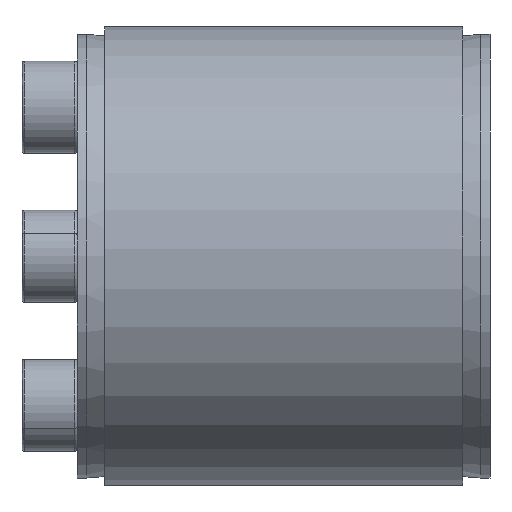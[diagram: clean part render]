
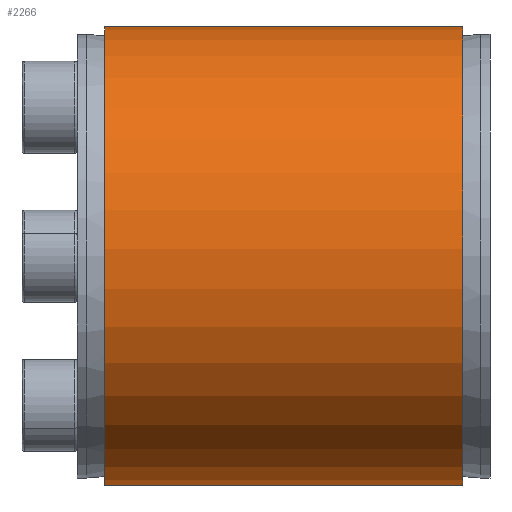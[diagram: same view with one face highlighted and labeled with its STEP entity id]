
A CAD part, front view. The second image highlights one B-rep face of the part: STEP entity #2266.
In plain terms, the highlighted cylindrical face has radius 25 mm (diameter 50 mm), a partial arc.
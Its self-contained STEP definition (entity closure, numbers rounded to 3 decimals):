
#130 = ORIENTED_EDGE ( 'NONE', *, *, #1966, .F. ) ;
#186 = VERTEX_POINT ( 'NONE', #965 ) ;
#212 = CARTESIAN_POINT ( 'NONE',  ( -43.184, -1.5, -24.955 ) ) ;
#333 = CARTESIAN_POINT ( 'NONE',  ( 21.732, 0., 25. ) ) ;
#440 = DIRECTION ( 'NONE',  ( 0., 0., 1. ) ) ;
#710 = ORIENTED_EDGE ( 'NONE', *, *, #2293, .T. ) ;
#965 = CARTESIAN_POINT ( 'NONE',  ( 21.732, -1.5, -24.955 ) ) ;
#1038 = CARTESIAN_POINT ( 'NONE',  ( 21.732, 0., 0. ) ) ;
#1049 = AXIS2_PLACEMENT_3D ( 'NONE', #3441, #5694, #3909 ) ;
#1065 = CIRCLE ( 'NONE', #1569, 25. ) ;
#1266 = VERTEX_POINT ( 'NONE', #3259 ) ;
#1298 = CIRCLE ( 'NONE', #1583, 25. ) ;
#1569 = AXIS2_PLACEMENT_3D ( 'NONE', #1038, #3871, #3390 ) ;
#1583 = AXIS2_PLACEMENT_3D ( 'NONE', #3018, #2194, #440 ) ;
#1670 = DIRECTION ( 'NONE',  ( -1., 0., 0. ) ) ;
#1757 = VERTEX_POINT ( 'NONE', #333 ) ;
#1966 = EDGE_CURVE ( 'NONE', #3067, #1266, #1298, .T. ) ;
#1986 = EDGE_CURVE ( 'NONE', #186, #1757, #1065, .T. ) ;
#2194 = DIRECTION ( 'NONE',  ( -1., 0., 0. ) ) ;
#2266 = ADVANCED_FACE ( 'NONE', ( #4749 ), #4362, .T. ) ;
#2293 = EDGE_CURVE ( 'NONE', #3067, #186, #4897, .T. ) ;
#2467 = EDGE_CURVE ( 'NONE', #1757, #1266, #2940, .T. ) ;
#2632 = CARTESIAN_POINT ( 'NONE',  ( -43.184, 0., 25. ) ) ;
#2940 = LINE ( 'NONE', #2632, #3251 ) ;
#3018 = CARTESIAN_POINT ( 'NONE',  ( -17.268, 0., 0. ) ) ;
#3067 = VERTEX_POINT ( 'NONE', #3523 ) ;
#3251 = VECTOR ( 'NONE', #1670, 1000. ) ;
#3259 = CARTESIAN_POINT ( 'NONE',  ( -17.268, 0., 25. ) ) ;
#3390 = DIRECTION ( 'NONE',  ( 0., 0., 1. ) ) ;
#3441 = CARTESIAN_POINT ( 'NONE',  ( -43.184, 0., 0. ) ) ;
#3456 = DIRECTION ( 'NONE',  ( 1., 0., 0. ) ) ;
#3523 = CARTESIAN_POINT ( 'NONE',  ( -17.268, -1.5, -24.955 ) ) ;
#3871 = DIRECTION ( 'NONE',  ( -1., 0., 0. ) ) ;
#3909 = DIRECTION ( 'NONE',  ( 0., 0., 1. ) ) ;
#4320 = VECTOR ( 'NONE', #3456, 1000. ) ;
#4362 = CYLINDRICAL_SURFACE ( 'NONE', #1049, 25. ) ;
#4749 = FACE_OUTER_BOUND ( 'NONE', #4822, .T. ) ;
#4822 = EDGE_LOOP ( 'NONE', ( #5395, #5615, #130, #710 ) ) ;
#4897 = LINE ( 'NONE', #212, #4320 ) ;
#5395 = ORIENTED_EDGE ( 'NONE', *, *, #1986, .T. ) ;
#5615 = ORIENTED_EDGE ( 'NONE', *, *, #2467, .T. ) ;
#5694 = DIRECTION ( 'NONE',  ( -1., 0., 0. ) ) ;
